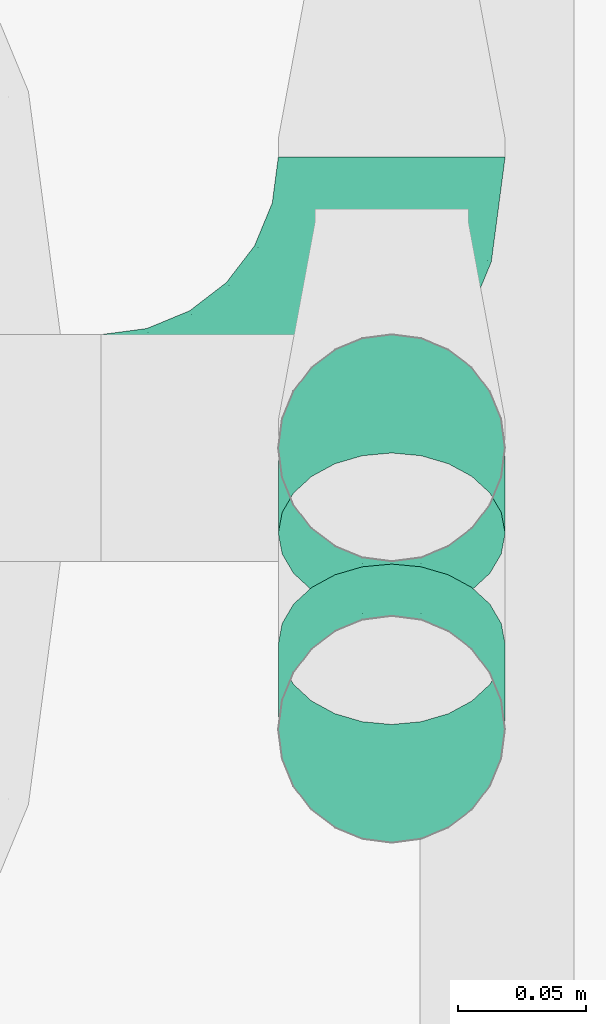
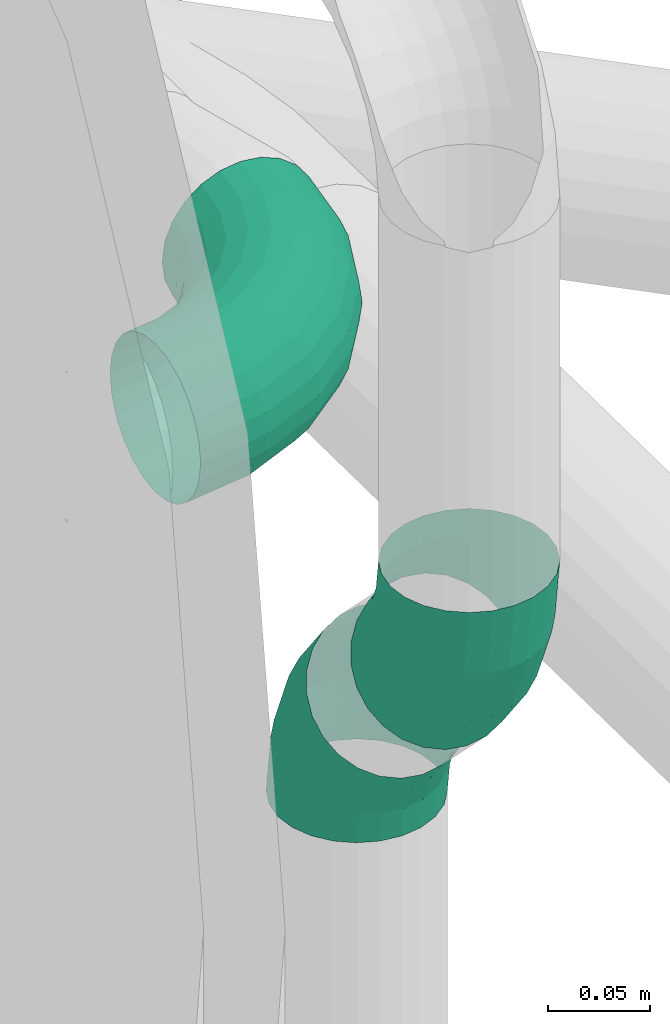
# One storey, part 93 of 374: 3 flow segments.
"""IFC2X3 building model written with IfcOpenShell, lengths in metres."""

from ifc_helpers import new_model, si_unit, direction, origin, place, context, subcontext, project, spatial, open_shell, surface_model, source, transform, mapped, element, save


model = new_model("IFC2X3")

# Units and contexts
model_context = context("Model", 3, precision=1e-05, world=origin(), true_north=direction((-0.4480736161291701, 0.8939966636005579)))
body_context = subcontext(model_context, "Body", "Model", "MODEL_VIEW")
ifc_project = project(units=[si_unit("LENGTHUNIT", "METRE"), si_unit("AREAUNIT", "SQUARE_METRE"), si_unit("VOLUMEUNIT", "CUBIC_METRE"), si_unit("PLANEANGLEUNIT", "RADIAN"), si_unit("THERMODYNAMICTEMPERATUREUNIT", "KELVIN"), si_unit("MASSUNIT", "GRAM", prefix="KILO"), si_unit("TIMEUNIT", "SECOND")], contexts=[model_context])

# Site, building, storey
site_placement = place(None, origin())
site = spatial("IfcSite", under=ifc_project, at=site_placement, Name="Site 1", CompositionType="ELEMENT")
building_placement = place(site_placement, origin())
building = spatial("IfcBuilding", under=site, at=building_placement, Name="Undefined", CompositionType="ELEMENT")
storey_placement = place(building_placement, origin())
storey = spatial("IfcBuildingStorey", under=building, at=storey_placement, Name="Rez de chauss\x8ee", CompositionType="ELEMENT", Elevation=0.0)

# Flow segments
shared_shape_1 = source(origin(), body_context, "Body", "SurfaceModel", [
    surface_model("IfcFaceBasedSurfaceModel", [(0.041363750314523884, -1.776356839e-15, 0.0), (0.04116605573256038, 0.011602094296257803, 0.0), (0.000197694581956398, 0.011602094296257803, 8.8817842e-16), (0.0, 0.0, 0.0), (-0.03937470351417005, 0.01297447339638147, -0.010514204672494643), (-0.039954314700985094, 0.0013856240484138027, -0.010615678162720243), (-0.07485434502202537, 0.015625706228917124, -0.03082608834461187), (-0.07577637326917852, 0.004062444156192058, -0.03112359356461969), (-0.10382335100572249, 0.01937511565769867, -0.059551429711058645), (-0.1050249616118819, 0.007848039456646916, -0.06012616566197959), (-0.12430753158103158, 0.023967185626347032, -0.09473264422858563), (-0.1257068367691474, 0.012484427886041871, -0.09564691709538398), (-0.1349109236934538, 0.029088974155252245, -0.13397219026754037), (-0.136412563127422, 0.017655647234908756, -0.13526516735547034), (0.04058644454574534, 0.02280223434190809, -0.0029780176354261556), (0.0007773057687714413, 0.022802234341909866, -0.002978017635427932), (-0.037675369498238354, 0.024135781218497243, -0.013194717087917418), (-0.07215109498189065, 0.026711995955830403, -0.032931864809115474), (-0.10030040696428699, 0.030355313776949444, -0.06084440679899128), (-0.12020497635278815, 0.03481744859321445, -0.09503014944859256), (-0.1305083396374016, 0.039794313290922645, -0.13315939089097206), (0.03966441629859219, 0.03283714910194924, -0.00873110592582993), (0.0016993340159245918, 0.03283714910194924, -0.00873110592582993), (-0.034972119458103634, 0.034108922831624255, -0.018474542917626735), (-0.06785084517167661, 0.03656580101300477, -0.03729741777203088), (-0.09469621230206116, 0.04004035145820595, -0.06391698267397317), (-0.11367875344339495, 0.044295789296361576, -0.09651915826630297), (-0.12350483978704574, 0.04904211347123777, -0.13288216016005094), (0.03846280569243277, 0.041022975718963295, -0.016867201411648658), (0.0029009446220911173, 0.04102297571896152, -0.016867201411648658), (-0.031449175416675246, 0.04221424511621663, -0.025993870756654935), (-0.06224665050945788, 0.044515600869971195, -0.04362524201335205), (-0.08739268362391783, 0.047770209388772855, -0.06855976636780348), (-0.10517361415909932, 0.051756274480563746, -0.09909819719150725), (-0.11437770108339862, 0.056202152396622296, -0.13315939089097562), (0.03706350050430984, 0.04680186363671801, -0.026831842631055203), (0.004300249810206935, 0.046801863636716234, -0.02683184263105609), (-0.027346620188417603, 0.047899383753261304, -0.03524027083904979), (-0.055720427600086, 0.050019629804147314, -0.051484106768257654), (-0.07888754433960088, 0.053018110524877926, -0.07445635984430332), (-0.09526916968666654, 0.056690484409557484, -0.10259150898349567), (-0.1037489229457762, 0.06078648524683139, -0.13397219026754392), (0.03556186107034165, 0.04977999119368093, -0.0379459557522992), (0.005801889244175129, 0.04977999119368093, -0.03794595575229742), (-0.022944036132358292, 0.05077690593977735, -0.045583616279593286), (-0.04871692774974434, 0.052702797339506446, -0.06033844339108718), (-0.06976040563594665, 0.05542641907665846, -0.08120492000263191), (-0.08464039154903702, 0.05876216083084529, -0.10676103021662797), (-0.09234283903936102, 0.06248269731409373, -0.13526516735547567), (0.03406022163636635, 0.04975440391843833, -0.049452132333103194), (0.007303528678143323, 0.04975440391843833, -0.04945213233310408), (-0.018541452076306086, 0.0506507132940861, -0.05631902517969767), (-0.04171342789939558, 0.05238225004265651, -0.06958484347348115), (-0.060633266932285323, 0.05483101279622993, -0.0883455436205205), (-0.0740116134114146, 0.057830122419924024, -0.11132261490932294), (-0.08093675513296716, 0.06117519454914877, -0.13695020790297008), (0.03266091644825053, 0.04672684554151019, -0.06056624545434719), (0.008702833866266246, 0.04672684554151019, -0.0605662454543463), (-0.014438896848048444, 0.04752940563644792, -0.06671489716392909), (-0.0351872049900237, 0.04907983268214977, -0.07859318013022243), (-0.05212812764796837, 0.051272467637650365, -0.09539160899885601), (-0.06410716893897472, 0.053957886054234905, -0.1159653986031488), (-0.07030797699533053, 0.05695308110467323, -0.13891247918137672), (0.03145930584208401, 0.04090363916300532, -0.07053088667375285), (0.009904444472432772, 0.0409036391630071, -0.07053088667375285), (-0.010915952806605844, 0.041625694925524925, -0.07606277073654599), (-0.02958301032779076, 0.0430205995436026, -0.08674955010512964), (-0.04482459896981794, 0.044993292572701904, -0.10186293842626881), (-0.055602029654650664, 0.04740933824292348, -0.12037298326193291), (-0.0611808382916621, 0.05010408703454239, -0.14101825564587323), (0.030537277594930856, 0.032681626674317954, -0.0786669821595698), (0.010826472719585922, 0.03268162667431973, -0.07866698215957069), (-0.00821270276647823, 0.033341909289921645, -0.08372560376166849), (-0.02528276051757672, 0.03461747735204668, -0.09349811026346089), (-0.039220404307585, 0.03642140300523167, -0.10731852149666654), (-0.04907580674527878, 0.03863075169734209, -0.12424499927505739), (-0.054177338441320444, 0.041094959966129, -0.14312403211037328), (0.029957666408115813, 0.022621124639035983, -0.0844200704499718), (0.011406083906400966, 0.022621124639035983, -0.08442007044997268), (-0.006513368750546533, 0.023242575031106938, -0.08918118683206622), (-0.022579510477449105, 0.024443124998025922, -0.09837895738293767), (-0.03569746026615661, 0.026140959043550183, -0.11138656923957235), (-0.044973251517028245, 0.028220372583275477, -0.12731757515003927), (-0.049774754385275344, 0.030539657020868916, -0.14508630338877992), (0.029759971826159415, 0.011407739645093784, -0.08739808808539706), (0.011603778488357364, 0.011407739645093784, -0.08739808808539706), (-0.0059337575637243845, 0.012015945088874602, -0.09205773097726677), (-0.021657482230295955, 0.013190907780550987, -0.1010594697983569), (-0.03449584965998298, 0.01485255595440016, -0.11378985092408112), (-0.043573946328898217, 0.016887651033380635, -0.12938131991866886), (-0.048273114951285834, 0.019157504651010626, -0.14677134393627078), (0.029957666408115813, -0.00019435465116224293, -0.08739808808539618), (0.011406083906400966, -0.0001943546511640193, -0.08739808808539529), (-0.006513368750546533, 0.00042709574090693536, -0.09215920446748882), (-0.022579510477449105, 0.0016276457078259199, -0.10135697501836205), (-0.03569746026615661, 0.00332547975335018, -0.11436458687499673), (-0.044973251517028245, 0.0054048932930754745, -0.13029559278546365), (-0.049774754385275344, 0.007724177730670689, -0.1480643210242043), (0.030537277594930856, -0.011394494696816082, -0.08442007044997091), (0.010826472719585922, -0.011394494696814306, -0.08442007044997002), (-0.00821270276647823, -0.010734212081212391, -0.0894786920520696), (-0.02528276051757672, -0.009458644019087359, -0.09925119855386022), (-0.039220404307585, -0.007654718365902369, -0.11307160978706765), (-0.04907580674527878, -0.005445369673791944, -0.12999808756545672), (-0.054177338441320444, -0.0029811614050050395, -0.1488771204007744), (0.03145930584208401, -0.021429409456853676, -0.07866698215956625), (0.009904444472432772, -0.021429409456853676, -0.07866698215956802), (-0.010915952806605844, -0.02070735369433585, -0.08419886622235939), (-0.02958301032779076, -0.019312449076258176, -0.09488564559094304), (-0.04482459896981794, -0.017339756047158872, -0.10999903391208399), (-0.055602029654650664, -0.014923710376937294, -0.1285090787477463), (-0.0611808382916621, -0.012228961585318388, -0.1491543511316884), (0.03266091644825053, -0.029615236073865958, -0.0705308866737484), (0.008702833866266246, -0.029615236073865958, -0.07053088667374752), (-0.014438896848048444, -0.02881267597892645, -0.0766795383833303), (-0.0351872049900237, -0.027262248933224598, -0.08855782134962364), (-0.05212812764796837, -0.025069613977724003, -0.105356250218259), (-0.06410716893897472, -0.022384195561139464, -0.1259300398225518), (-0.07030797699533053, -0.019389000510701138, -0.14887712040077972), (0.03406022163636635, -0.03539412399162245, -0.06056624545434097), (0.007303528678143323, -0.03539412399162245, -0.06056624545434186), (-0.018541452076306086, -0.034497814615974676, -0.06743313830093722), (-0.04171342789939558, -0.03276627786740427, -0.08069895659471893), (-0.060633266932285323, -0.03031751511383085, -0.09945965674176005), (-0.0740116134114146, -0.027318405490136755, -0.12243672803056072), (-0.08093675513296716, -0.023973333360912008, -0.14806432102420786), (0.03556186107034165, -0.038372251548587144, -0.04945213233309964), (0.005801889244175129, -0.038372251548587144, -0.049452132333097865), (-0.022944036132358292, -0.03737533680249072, -0.05708979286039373), (-0.04871692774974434, -0.035449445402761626, -0.0718446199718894), (-0.06976040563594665, -0.03272582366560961, -0.09271109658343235), (-0.08464039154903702, -0.029390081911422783, -0.11826720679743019), (-0.09234283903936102, -0.025669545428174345, -0.1467713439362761), (0.03706350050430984, -0.03834666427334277, -0.03794595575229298), (0.004300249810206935, -0.038346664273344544, -0.03794595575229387), (-0.027346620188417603, -0.037249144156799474, -0.04635438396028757), (-0.055720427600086, -0.035128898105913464, -0.06259821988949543), (-0.07888754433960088, -0.03213041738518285, -0.0855704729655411), (-0.09526916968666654, -0.028458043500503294, -0.11370562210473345), (-0.1037489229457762, -0.02436204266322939, -0.1450863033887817), (0.03846280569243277, -0.03531910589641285, -0.026831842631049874), (0.0029009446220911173, -0.03531910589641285, -0.02683184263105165), (-0.031449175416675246, -0.03412783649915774, -0.03595851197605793), (-0.06224665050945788, -0.031826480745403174, -0.05358988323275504), (-0.08739268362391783, -0.028571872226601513, -0.07852440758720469), (-0.10517361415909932, -0.024585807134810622, -0.10906283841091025), (-0.11437770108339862, -0.020139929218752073, -0.1431240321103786), (0.03966441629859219, -0.029495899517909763, -0.01686720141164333), (0.0016993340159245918, -0.02949589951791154, -0.016867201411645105), (-0.034972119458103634, -0.02822412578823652, -0.02661063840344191), (-0.06785084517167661, -0.025767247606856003, -0.04543351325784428), (-0.09469621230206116, -0.02229269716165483, -0.07205307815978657), (-0.11367875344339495, -0.0180372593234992, -0.10465525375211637), (-0.12350483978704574, -0.013290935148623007, -0.14101825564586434), (0.04058644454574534, -0.021273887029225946, -0.008731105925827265), (0.0007773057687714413, -0.02127388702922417, -0.008731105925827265), (-0.037675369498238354, -0.019940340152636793, -0.018947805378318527), (-0.07215109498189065, -0.017364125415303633, -0.038684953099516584), (-0.10030040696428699, -0.013720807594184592, -0.06659749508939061), (-0.12020497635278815, -0.009258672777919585, -0.1007832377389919), (-0.1305083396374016, -0.004281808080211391, -0.1389124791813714), (0.04116605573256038, -0.011213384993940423, -0.0029780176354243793), (0.000197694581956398, -0.0112133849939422, -0.002978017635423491), (-0.03937470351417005, -0.009841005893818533, -0.013492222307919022), (-0.07485434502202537, -0.007189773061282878, -0.03380410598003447), (-0.10382335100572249, -0.003440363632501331, -0.06252944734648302), (-0.12430753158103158, 0.0011517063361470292, -0.09771066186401), (-0.1349109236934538, 0.006273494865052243, -0.13695020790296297)], [open_shell([[[0, 1, 2, 3]], [[3, 2, 4, 5]], [[5, 4, 6, 7]], [[7, 6, 8, 9]], [[9, 8, 10, 11]], [[11, 10, 12, 13]], [[1, 14, 15, 2]], [[2, 15, 16, 4]], [[4, 16, 17, 6]], [[6, 17, 18, 8]], [[8, 18, 19, 10]], [[10, 19, 20, 12]], [[14, 21, 22, 15]], [[15, 22, 23, 16]], [[16, 23, 24, 17]], [[17, 24, 25, 18]], [[18, 25, 26, 19]], [[19, 26, 27, 20]], [[21, 28, 29, 22]], [[22, 29, 30, 23]], [[23, 30, 31, 24]], [[24, 31, 32, 25]], [[25, 32, 33, 26]], [[26, 33, 34, 27]], [[28, 35, 36, 29]], [[29, 36, 37, 30]], [[30, 37, 38, 31]], [[31, 38, 39, 32]], [[32, 39, 40, 33]], [[33, 40, 41, 34]], [[35, 42, 43, 36]], [[36, 43, 44, 37]], [[37, 44, 45, 38]], [[38, 45, 46, 39]], [[39, 46, 47, 40]], [[40, 47, 48, 41]], [[42, 49, 50, 43]], [[43, 50, 51, 44]], [[44, 51, 52, 45]], [[45, 52, 53, 46]], [[46, 53, 54, 47]], [[47, 54, 55, 48]], [[49, 56, 57, 50]], [[50, 57, 58, 51]], [[51, 58, 59, 52]], [[52, 59, 60, 53]], [[53, 60, 61, 54]], [[54, 61, 62, 55]], [[56, 63, 64, 57]], [[57, 64, 65, 58]], [[58, 65, 66, 59]], [[59, 66, 67, 60]], [[60, 67, 68, 61]], [[61, 68, 69, 62]], [[63, 70, 71, 64]], [[64, 71, 72, 65]], [[65, 72, 73, 66]], [[66, 73, 74, 67]], [[67, 74, 75, 68]], [[68, 75, 76, 69]], [[70, 77, 78, 71]], [[71, 78, 79, 72]], [[72, 79, 80, 73]], [[73, 80, 81, 74]], [[74, 81, 82, 75]], [[75, 82, 83, 76]], [[77, 84, 85, 78]], [[78, 85, 86, 79]], [[79, 86, 87, 80]], [[80, 87, 88, 81]], [[81, 88, 89, 82]], [[82, 89, 90, 83]], [[84, 91, 92, 85]], [[85, 92, 93, 86]], [[86, 93, 94, 87]], [[87, 94, 95, 88]], [[88, 95, 96, 89]], [[89, 96, 97, 90]], [[91, 98, 99, 92]], [[92, 99, 100, 93]], [[93, 100, 101, 94]], [[94, 101, 102, 95]], [[95, 102, 103, 96]], [[96, 103, 104, 97]], [[98, 105, 106, 99]], [[99, 106, 107, 100]], [[100, 107, 108, 101]], [[101, 108, 109, 102]], [[102, 109, 110, 103]], [[103, 110, 111, 104]], [[105, 112, 113, 106]], [[106, 113, 114, 107]], [[107, 114, 115, 108]], [[108, 115, 116, 109]], [[109, 116, 117, 110]], [[110, 117, 118, 111]], [[112, 119, 120, 113]], [[113, 120, 121, 114]], [[114, 121, 122, 115]], [[115, 122, 123, 116]], [[116, 123, 124, 117]], [[117, 124, 125, 118]], [[119, 126, 127, 120]], [[120, 127, 128, 121]], [[121, 128, 129, 122]], [[122, 129, 130, 123]], [[123, 130, 131, 124]], [[124, 131, 132, 125]], [[126, 133, 134, 127]], [[127, 134, 135, 128]], [[128, 135, 136, 129]], [[129, 136, 137, 130]], [[130, 137, 138, 131]], [[131, 138, 139, 132]], [[133, 140, 141, 134]], [[134, 141, 142, 135]], [[135, 142, 143, 136]], [[136, 143, 144, 137]], [[137, 144, 145, 138]], [[138, 145, 146, 139]], [[140, 147, 148, 141]], [[141, 148, 149, 142]], [[142, 149, 150, 143]], [[143, 150, 151, 144]], [[144, 151, 152, 145]], [[145, 152, 153, 146]], [[147, 154, 155, 148]], [[148, 155, 156, 149]], [[149, 156, 157, 150]], [[150, 157, 158, 151]], [[151, 158, 159, 152]], [[152, 159, 160, 153]], [[154, 161, 162, 155]], [[155, 162, 163, 156]], [[156, 163, 164, 157]], [[157, 164, 165, 158]], [[158, 165, 166, 159]], [[159, 166, 167, 160]], [[161, 0, 3, 162]], [[162, 3, 5, 163]], [[163, 5, 7, 164]], [[164, 7, 9, 165]], [[165, 9, 11, 166]], [[166, 11, 13, 167]]])]),
])
flow_segment_1_placement = place(storey_placement, origin())
element("IfcFlowSegment", 1, at=flow_segment_1_placement, inside=storey, Name="Tube coudé", ObjectType="Tube coudé", context=body_context, shape_type="MappedRepresentation", body=[
    mapped(shared_shape_1, transform((54.92984044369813, 9.943264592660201, 1.6917844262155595), x_axis=(-0.9914448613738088, -0.13052619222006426, 0.0), y_axis=(-0.01689378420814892, 0.1283210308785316, -0.9915887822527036), z_axis=(0.12942830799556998, -0.9831056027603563, -0.12942830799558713))),
])
shared_shape_2 = source(origin(), body_context, "Body", "SurfaceModel", [
    surface_model("IfcFaceBasedSurfaceModel", [(0.041363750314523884, -1.776356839e-15, 0.0), (0.04116605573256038, 0.011602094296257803, 0.0), (0.000197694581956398, 0.011602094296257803, 8.8817842e-16), (0.0, 0.0, 0.0), (-0.03937470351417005, 0.01297447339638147, -0.010514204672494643), (-0.039954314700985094, 0.0013856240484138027, -0.010615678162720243), (-0.07485434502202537, 0.015625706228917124, -0.03082608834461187), (-0.07577637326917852, 0.004062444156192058, -0.03112359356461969), (0.04058644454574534, 0.02280223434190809, -0.0029780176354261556), (0.0007773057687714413, 0.022802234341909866, -0.002978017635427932), (-0.037675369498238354, 0.024135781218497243, -0.013194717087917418), (-0.07215109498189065, 0.026711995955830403, -0.032931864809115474), (0.03966441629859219, 0.03283714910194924, -0.00873110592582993), (0.0016993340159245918, 0.03283714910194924, -0.00873110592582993), (-0.034972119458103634, 0.034108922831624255, -0.018474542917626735), (-0.06785084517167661, 0.03656580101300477, -0.03729741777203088), (0.03846280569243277, 0.041022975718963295, -0.016867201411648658), (0.0029009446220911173, 0.04102297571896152, -0.016867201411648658), (-0.031449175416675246, 0.04221424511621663, -0.025993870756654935), (-0.06224665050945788, 0.044515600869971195, -0.04362524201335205), (0.03706350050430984, 0.04680186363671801, -0.026831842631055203), (0.004300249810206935, 0.046801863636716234, -0.02683184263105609), (-0.027346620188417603, 0.047899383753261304, -0.03524027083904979), (-0.055720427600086, 0.050019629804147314, -0.051484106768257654), (0.03556186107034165, 0.04977999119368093, -0.0379459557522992), (0.005801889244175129, 0.04977999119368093, -0.03794595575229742), (-0.022944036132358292, 0.05077690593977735, -0.045583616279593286), (-0.04871692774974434, 0.052702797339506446, -0.06033844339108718), (0.03406022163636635, 0.04975440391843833, -0.049452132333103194), (0.007303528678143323, 0.04975440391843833, -0.04945213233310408), (-0.018541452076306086, 0.0506507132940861, -0.05631902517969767), (-0.04171342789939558, 0.05238225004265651, -0.06958484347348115), (0.03266091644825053, 0.04672684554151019, -0.06056624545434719), (0.008702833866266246, 0.04672684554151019, -0.0605662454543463), (-0.014438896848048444, 0.04752940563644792, -0.06671489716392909), (-0.0351872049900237, 0.04907983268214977, -0.07859318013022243), (0.03145930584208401, 0.04090363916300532, -0.07053088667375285), (0.009904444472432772, 0.0409036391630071, -0.07053088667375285), (-0.010915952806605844, 0.041625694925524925, -0.07606277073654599), (-0.02958301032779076, 0.0430205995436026, -0.08674955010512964), (0.030537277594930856, 0.032681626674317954, -0.0786669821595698), (0.010826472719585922, 0.03268162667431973, -0.07866698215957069), (-0.00821270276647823, 0.033341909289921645, -0.08372560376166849), (-0.02528276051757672, 0.03461747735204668, -0.09349811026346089), (0.029957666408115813, 0.022621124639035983, -0.0844200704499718), (0.011406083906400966, 0.022621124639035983, -0.08442007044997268), (-0.006513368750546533, 0.023242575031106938, -0.08918118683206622), (-0.022579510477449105, 0.024443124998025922, -0.09837895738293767), (0.029759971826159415, 0.011407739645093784, -0.08739808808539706), (0.011603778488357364, 0.011407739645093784, -0.08739808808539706), (-0.0059337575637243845, 0.012015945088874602, -0.09205773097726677), (-0.021657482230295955, 0.013190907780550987, -0.1010594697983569), (0.029957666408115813, -0.00019435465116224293, -0.08739808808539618), (0.011406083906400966, -0.0001943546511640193, -0.08739808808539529), (-0.006513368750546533, 0.00042709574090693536, -0.09215920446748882), (-0.022579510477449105, 0.0016276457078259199, -0.10135697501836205), (0.030537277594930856, -0.011394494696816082, -0.08442007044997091), (0.010826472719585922, -0.011394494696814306, -0.08442007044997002), (-0.00821270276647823, -0.010734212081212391, -0.0894786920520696), (-0.02528276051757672, -0.009458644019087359, -0.09925119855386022), (0.03145930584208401, -0.021429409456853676, -0.07866698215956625), (0.009904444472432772, -0.021429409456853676, -0.07866698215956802), (-0.010915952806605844, -0.02070735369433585, -0.08419886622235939), (-0.02958301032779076, -0.019312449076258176, -0.09488564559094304), (0.03266091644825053, -0.029615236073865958, -0.0705308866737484), (0.008702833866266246, -0.029615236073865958, -0.07053088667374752), (-0.014438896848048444, -0.02881267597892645, -0.0766795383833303), (-0.0351872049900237, -0.027262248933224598, -0.08855782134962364), (0.03406022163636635, -0.03539412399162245, -0.06056624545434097), (0.007303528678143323, -0.03539412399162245, -0.06056624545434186), (-0.018541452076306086, -0.034497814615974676, -0.06743313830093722), (-0.04171342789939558, -0.03276627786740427, -0.08069895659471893), (0.03556186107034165, -0.038372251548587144, -0.04945213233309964), (0.005801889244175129, -0.038372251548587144, -0.049452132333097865), (-0.022944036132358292, -0.03737533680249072, -0.05708979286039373), (-0.04871692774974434, -0.035449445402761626, -0.0718446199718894), (0.03706350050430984, -0.03834666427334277, -0.03794595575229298), (0.004300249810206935, -0.038346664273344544, -0.03794595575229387), (-0.027346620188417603, -0.037249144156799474, -0.04635438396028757), (-0.055720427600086, -0.035128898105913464, -0.06259821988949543), (0.03846280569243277, -0.03531910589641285, -0.026831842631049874), (0.0029009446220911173, -0.03531910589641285, -0.02683184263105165), (-0.031449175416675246, -0.03412783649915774, -0.03595851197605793), (-0.06224665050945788, -0.031826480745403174, -0.05358988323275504), (0.03966441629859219, -0.029495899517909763, -0.01686720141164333), (0.0016993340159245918, -0.02949589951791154, -0.016867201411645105), (-0.034972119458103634, -0.02822412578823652, -0.02661063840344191), (-0.06785084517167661, -0.025767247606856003, -0.04543351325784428), (0.04058644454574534, -0.021273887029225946, -0.008731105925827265), (0.0007773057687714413, -0.02127388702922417, -0.008731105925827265), (-0.037675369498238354, -0.019940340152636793, -0.018947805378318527), (-0.07215109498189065, -0.017364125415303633, -0.038684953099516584), (0.04116605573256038, -0.011213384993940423, -0.0029780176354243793), (0.000197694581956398, -0.0112133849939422, -0.002978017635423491), (-0.03937470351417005, -0.009841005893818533, -0.013492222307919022), (-0.07485434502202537, -0.007189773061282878, -0.03380410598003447)], [open_shell([[[0, 1, 2, 3]], [[3, 2, 4, 5]], [[5, 4, 6, 7]], [[1, 8, 9, 2]], [[2, 9, 10, 4]], [[4, 10, 11, 6]], [[8, 12, 13, 9]], [[9, 13, 14, 10]], [[10, 14, 15, 11]], [[12, 16, 17, 13]], [[13, 17, 18, 14]], [[14, 18, 19, 15]], [[16, 20, 21, 17]], [[17, 21, 22, 18]], [[18, 22, 23, 19]], [[20, 24, 25, 21]], [[21, 25, 26, 22]], [[22, 26, 27, 23]], [[24, 28, 29, 25]], [[25, 29, 30, 26]], [[26, 30, 31, 27]], [[28, 32, 33, 29]], [[29, 33, 34, 30]], [[30, 34, 35, 31]], [[32, 36, 37, 33]], [[33, 37, 38, 34]], [[34, 38, 39, 35]], [[36, 40, 41, 37]], [[37, 41, 42, 38]], [[38, 42, 43, 39]], [[40, 44, 45, 41]], [[41, 45, 46, 42]], [[42, 46, 47, 43]], [[44, 48, 49, 45]], [[45, 49, 50, 46]], [[46, 50, 51, 47]], [[48, 52, 53, 49]], [[49, 53, 54, 50]], [[50, 54, 55, 51]], [[52, 56, 57, 53]], [[53, 57, 58, 54]], [[54, 58, 59, 55]], [[56, 60, 61, 57]], [[57, 61, 62, 58]], [[58, 62, 63, 59]], [[60, 64, 65, 61]], [[61, 65, 66, 62]], [[62, 66, 67, 63]], [[64, 68, 69, 65]], [[65, 69, 70, 66]], [[66, 70, 71, 67]], [[68, 72, 73, 69]], [[69, 73, 74, 70]], [[70, 74, 75, 71]], [[72, 76, 77, 73]], [[73, 77, 78, 74]], [[74, 78, 79, 75]], [[76, 80, 81, 77]], [[77, 81, 82, 78]], [[78, 82, 83, 79]], [[80, 84, 85, 81]], [[81, 85, 86, 82]], [[82, 86, 87, 83]], [[84, 88, 89, 85]], [[85, 89, 90, 86]], [[86, 90, 91, 87]], [[88, 92, 93, 89]], [[89, 93, 94, 90]], [[90, 94, 95, 91]], [[92, 0, 3, 93]], [[93, 3, 5, 94]], [[94, 5, 7, 95]]])]),
])
flow_segment_2_placement = place(storey_placement, origin())
element("IfcFlowSegment", 2, at=flow_segment_2_placement, inside=storey, Name="Tube coudé", ObjectType="Tube coudé", context=body_context, shape_type="MappedRepresentation", body=[
    mapped(shared_shape_2, transform((55.002830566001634, 10.021366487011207, 1.4695992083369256), x_axis=(0.0, 0.13052619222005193, -0.9914448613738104), y_axis=(-0.9915887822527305, -0.12832103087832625, -0.016893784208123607), z_axis=(-0.12942830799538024, 0.9831056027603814, 0.12942830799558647))),
])
flow_segment_3_placement = place(storey_placement, origin())
element("IfcFlowSegment", 3, at=flow_segment_3_placement, inside=storey, Name="Tube coudé", ObjectType="Tube coudé", context=body_context, shape_type="MappedRepresentation", body=[
    mapped(shared_shape_2, transform((55.002830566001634, 9.84877748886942, 1.5541213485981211), x_axis=(0.0, 0.6087614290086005, -0.7933533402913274), y_axis=(0.991588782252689, 0.10268238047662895, 0.07879096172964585), z_axis=(0.12942830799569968, -0.786680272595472, -0.603641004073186))),
])

save(model, "model.ifc")
